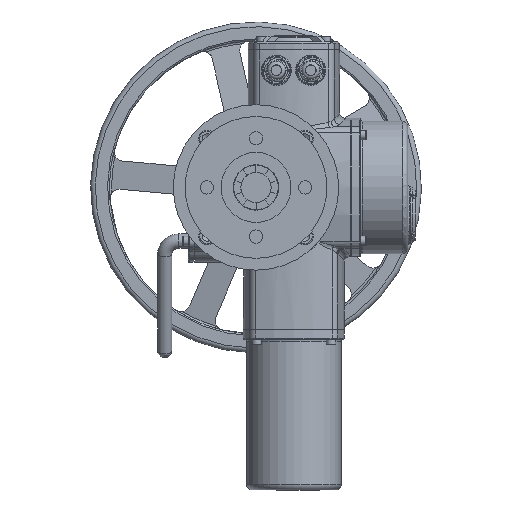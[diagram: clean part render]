
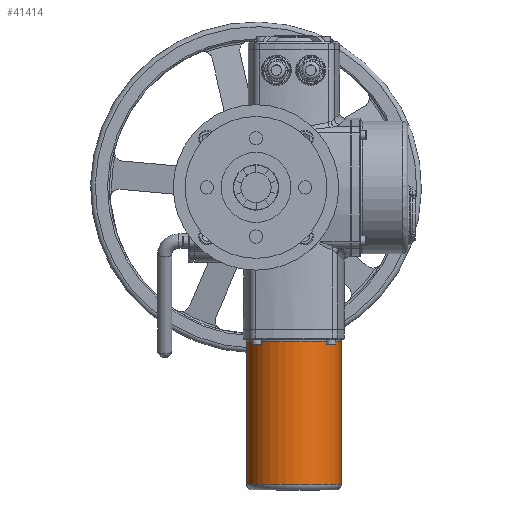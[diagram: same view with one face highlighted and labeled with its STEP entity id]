
A CAD part, front view. The second image highlights one B-rep face of the part: STEP entity #41414.
In plain terms, the highlighted cylindrical face has radius 50 mm (diameter 100 mm), a full revolution.
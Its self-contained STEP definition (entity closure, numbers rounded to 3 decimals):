
#5494=FACE_OUTER_BOUND('',#7929,.T.);
#7929=EDGE_LOOP('',(#33641,#33642,#33643,#33644,#33645));
#10858=LINE('',#82379,#13559);
#13559=VECTOR('',#51624,50.);
#14884=CIRCLE('',#44013,50.);
#14972=CIRCLE('',#44134,50.);
#14973=CIRCLE('',#44135,50.);
#18313=VERTEX_POINT('',#79239);
#18415=VERTEX_POINT('',#82378);
#18416=VERTEX_POINT('',#82380);
#23486=EDGE_CURVE('',#18313,#18313,#14884,.T.);
#23703=EDGE_CURVE('',#18313,#18415,#10858,.T.);
#23704=EDGE_CURVE('',#18416,#18415,#14972,.T.);
#23705=EDGE_CURVE('',#18415,#18416,#14973,.T.);
#33641=ORIENTED_EDGE('',*,*,#23486,.F.);
#33642=ORIENTED_EDGE('',*,*,#23703,.T.);
#33643=ORIENTED_EDGE('',*,*,#23704,.F.);
#33644=ORIENTED_EDGE('',*,*,#23705,.F.);
#33645=ORIENTED_EDGE('',*,*,#23703,.F.);
#37462=CYLINDRICAL_SURFACE('',#44133,50.);
#41414=ADVANCED_FACE('',(#5494),#37462,.T.);
#44013=AXIS2_PLACEMENT_3D('',#79241,#51359,#51360);
#44133=AXIS2_PLACEMENT_3D('',#82377,#51622,#51623);
#44134=AXIS2_PLACEMENT_3D('',#82381,#51625,#51626);
#44135=AXIS2_PLACEMENT_3D('',#82382,#51627,#51628);
#51359=DIRECTION('center_axis',(0.,0.,
-1.));
#51360=DIRECTION('ref_axis',(1.,0.,0.));
#51622=DIRECTION('center_axis',(0.,0.,
-1.));
#51623=DIRECTION('ref_axis',(-1.,0.,0.));
#51624=DIRECTION('',(0.,0.,1.));
#51625=DIRECTION('center_axis',(0.,0.,
1.));
#51626=DIRECTION('ref_axis',(1.,0.,0.));
#51627=DIRECTION('center_axis',(0.,0.,
1.));
#51628=DIRECTION('ref_axis',(1.,0.,0.));
#79239=CARTESIAN_POINT('',(90.,-13.55,-314.));
#79241=CARTESIAN_POINT('Origin',(40.,-13.55,-314.));
#82377=CARTESIAN_POINT('Origin',(40.,-13.55,-160.5));
#82378=CARTESIAN_POINT('',(90.,-13.55,-162.5));
#82379=CARTESIAN_POINT('',(90.,-13.55,-160.5));
#82380=CARTESIAN_POINT('',(-10.,-13.55,-162.5));
#82381=CARTESIAN_POINT('Origin',(40.,-13.55,-162.5));
#82382=CARTESIAN_POINT('Origin',(40.,-13.55,-162.5));
